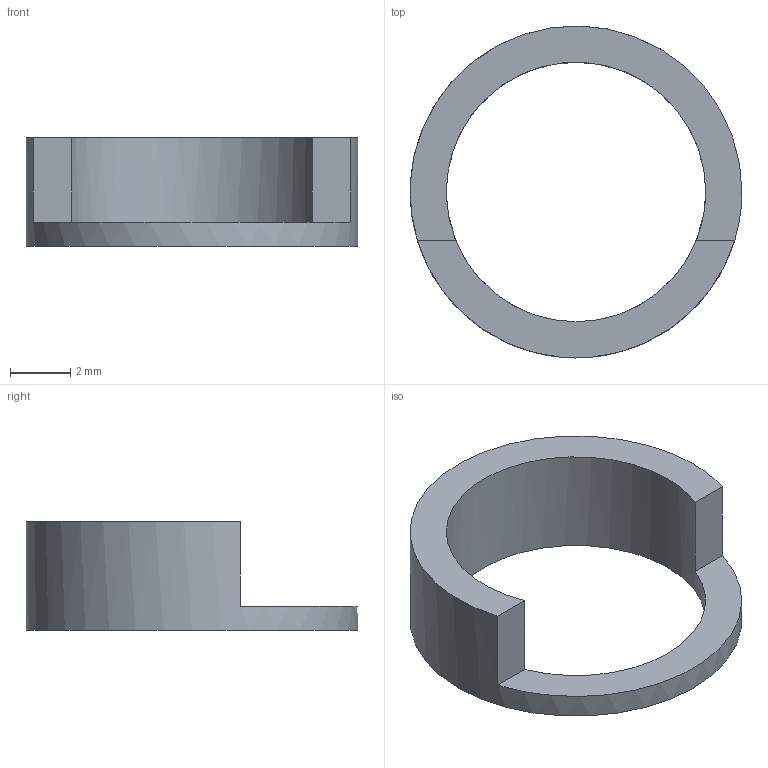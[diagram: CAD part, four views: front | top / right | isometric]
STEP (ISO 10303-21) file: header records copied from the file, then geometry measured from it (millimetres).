
FILE_DESCRIPTION(('FreeCAD Model'),'2;1');
FILE_NAME('Open CASCADE Shape Model','2026-09-05T19:19:37',('FreeCAD'),( 'FreeCAD'),'Open CASCADE STEP processor 7.8','FreeCAD','Unknown');
FILE_SCHEMA(('AUTOMOTIVE_DESIGN { 1 0 10303 214 1 1 1 1 }'));
Length unit declared in the file: millimetre
Products named in the file (1): Open CASCADE STEP translator 7.8 3
Bounding box: 11 x 11 x 3.6 mm (x, y, z)
Volume: 92.2 mm3; surface area: 234.7 mm2
Topology: 1 solids, 1 shells, 7 faces, 18 edges, 12 vertices
Faces by surface type: plane 5, cylinder 2
Full cylindrical faces by diameter (mm): 8.6 x1, 11 x1
Entity records: 234 total; most frequent: DIRECTION 42, CARTESIAN_POINT 38, ORIENTED_EDGE 36, EDGE_CURVE 18, AXIS2_PLACEMENT_3D 16, VERTEX_POINT 12, LINE 10, VECTOR 10
